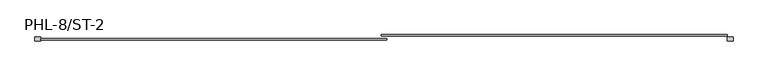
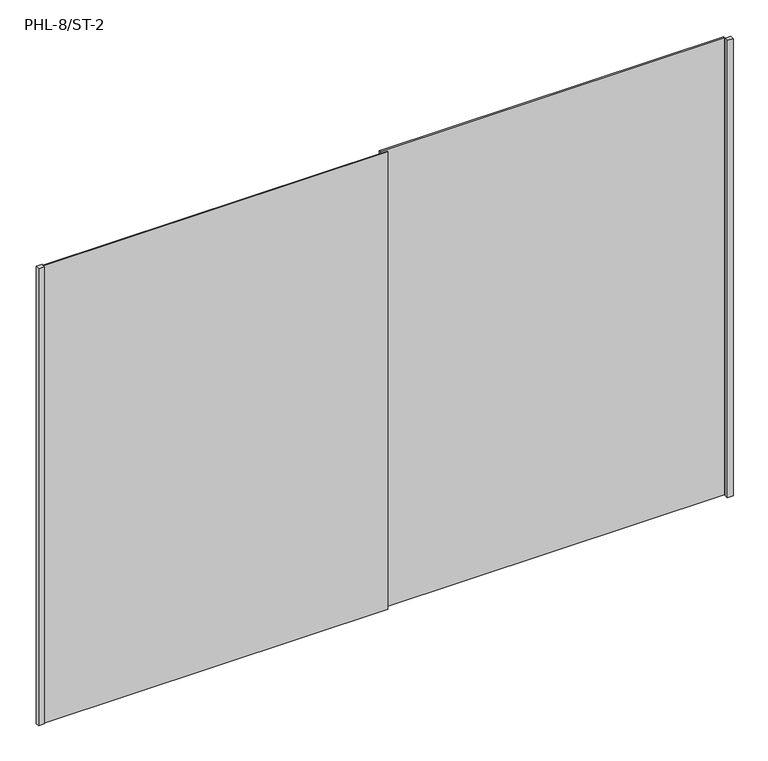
"""IFC4 building model written with IfcOpenShell, lengths in millimetres: furniture geometry, Puerta Closet corre 2 hojas : PHL-8/ST-2."""

from ifc_helpers import new_model, si_unit, origin, origin_with_axes, place, context, project, spatial, polyline, outline, extrude, source, transform, mapped, element, save


def phl_8_st_2_415c95a6(model_context):
    return source(origin(), model_context, "Body", "SweptSolid", [
        extrude(outline(polyline([(1270.0, 80.0), (1240.0, 80.0), (1240.0, 100.0), (1270.0, 100.0), (1270.0, 80.0)])), origin_with_axes(), (0.0, 0.0, 1.0), 2520.0),
        extrude(outline(polyline([(1240.0, 106.6666667), (-555.0, 106.6666667), (-555.0, 113.3333333), (1240.0, 113.3333333), (1240.0, 106.6666667)])), origin_with_axes(), (0.0, 0.0, 1.0), 2520.0),
        extrude(outline(polyline([(-525.0, 86.6666667), (-2320.0, 86.6666667), (-2320.0, 93.3333333), (-525.0, 93.3333333), (-525.0, 86.6666667)])), origin_with_axes(), (0.0, 0.0, 1.0), 2520.0),
        extrude(outline(polyline([(-2350.0, 80.0), (-2350.0, 100.0), (-2320.0, 100.0), (-2320.0, 80.0), (-2350.0, 80.0)])), origin_with_axes(), (0.0, 0.0, 1.0), 2520.0),
    ])


if __name__ == "__main__":
    model = new_model("IFC4")
    model_context = context("Model", 3, world=origin())
    ifc_project = project(units=[si_unit("LENGTHUNIT", "METRE", prefix="MILLI")], contexts=[model_context])
    site = spatial("IfcSite", under=ifc_project)
    building = spatial("IfcBuilding", under=site)
    placement = place(None, origin())
    phl_8_st_2_shape = phl_8_st_2_415c95a6(model_context)
    element("IfcFurniture", 1, ObjectType="Puerta Closet corre 2 hojas : PHL-8/ST-2", at=placement, inside=building, context=model_context, shape_type="MappedRepresentation", body=[
        mapped(phl_8_st_2_shape, transform((0.0, 0.0, 0.0), x_axis=(1.0, 0.0, 0.0), y_axis=(0.0, 1.0, 0.0), z_axis=(0.0, 0.0, 1.0))),
    ])
    save(model, "model.ifc")
